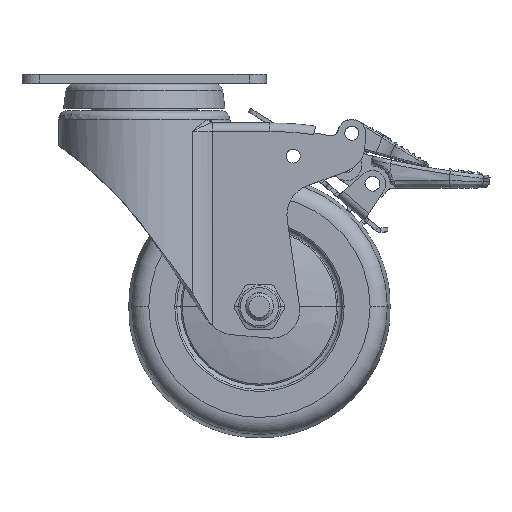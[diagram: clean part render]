
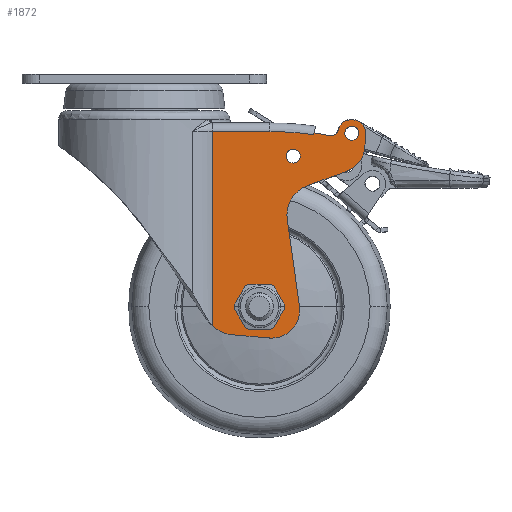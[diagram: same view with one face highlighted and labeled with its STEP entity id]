
A CAD part, top view. The second image highlights one B-rep face of the part: STEP entity #1872.
In plain terms, the highlighted planar face has unit normal (0, 0, 1).
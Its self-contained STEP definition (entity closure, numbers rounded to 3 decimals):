
#168=CARTESIAN_POINT('',(53.566,-5.193,18.5));
#169=DIRECTION('',(0.,0.,1.));
#170=DIRECTION('',(-0.191,-0.982,0.));
#171=AXIS2_PLACEMENT_3D('',#168,#169,#170);
#173=CARTESIAN_POINT('',(59.41,-6.555,18.5));
#174=DIRECTION('',(0.,0.,1.));
#175=DIRECTION('',(0.998,-0.07,0.));
#176=AXIS2_PLACEMENT_3D('',#173,#174,#175);
#178=DIRECTION('',(-0.07,-0.998,0.));
#179=VECTOR('',#178,3.604);
#180=CARTESIAN_POINT('',(63.4,-6.834,18.5));
#181=LINE('',#180,#179);
#182=CARTESIAN_POINT('',(55.168,-9.871,18.5));
#183=DIRECTION('',(0.,0.,1.));
#184=DIRECTION('',(0.342,-0.94,0.));
#185=AXIS2_PLACEMENT_3D('',#182,#183,#184);
#187=DIRECTION('',(-0.94,-0.342,0.));
#188=VECTOR('',#187,11.851);
#189=CARTESIAN_POINT('',(57.904,-17.389,18.5));
#190=LINE('',#189,#188);
#191=CARTESIAN_POINT('',(49.846,-29.899,18.5));
#192=DIRECTION('',(0.,0.,1.));
#193=DIRECTION('',(-0.342,0.94,0.));
#194=AXIS2_PLACEMENT_3D('',#191,#192,#193);
#196=DIRECTION('',(0.139,-0.99,0.));
#197=VECTOR('',#196,25.095);
#198=CARTESIAN_POINT('',(40.934,-31.152,18.5));
#199=LINE('',#198,#197);
#200=CARTESIAN_POINT('',(36.504,-57.116,18.5));
#201=DIRECTION('',(0.,0.,1.));
#202=DIRECTION('',(-0.044,-0.999,0.));
#203=AXIS2_PLACEMENT_3D('',#200,#201,#202);
#205=DIRECTION('',(-0.996,0.087,0.));
#206=VECTOR('',#205,10.919);
#207=CARTESIAN_POINT('',(36.155,-65.108,18.5));
#208=LINE('',#207,#206);
#209=CARTESIAN_POINT('',(26.149,-54.195,18.5));
#210=DIRECTION('',(0.,0.,1.));
#211=DIRECTION('',(-0.671,-0.741,0.));
#212=AXIS2_PLACEMENT_3D('',#209,#210,#211);
#214=DIRECTION('',(0.,-1.,0.));
#215=VECTOR('',#214,55.608);
#216=CARTESIAN_POINT('',(19.438,-6.,18.5));
#217=LINE('',#216,#215);
#218=DIRECTION('',(-1.,0.,0.));
#219=VECTOR('',#218,16.562);
#220=CARTESIAN_POINT('',(36.,-6.,18.5));
#221=LINE('',#220,#219);
#222=CARTESIAN_POINT('',(36.,-95.5,18.5));
#223=DIRECTION('',(0.,0.,1.));
#224=DIRECTION('',(0.14,0.99,0.));
#225=AXIS2_PLACEMENT_3D('',#222,#223,#224);
#227=CARTESIAN_POINT('',(36.,-95.5,18.5));
#228=DIRECTION('',(0.,0.,1.));
#229=DIRECTION('',(0.191,0.982,0.));
#230=AXIS2_PLACEMENT_3D('',#227,#228,#229);
#232=CARTESIAN_POINT('',(42.678,-13.,18.5));
#233=DIRECTION('',(0.,0.,1.));
#234=DIRECTION('',(1.,0.,0.));
#235=AXIS2_PLACEMENT_3D('',#232,#233,#234);
#237=CARTESIAN_POINT('',(42.678,-13.,18.5));
#238=DIRECTION('',(0.,0.,1.));
#239=DIRECTION('',(-1.,0.,0.));
#240=AXIS2_PLACEMENT_3D('',#237,#238,#239);
#242=CARTESIAN_POINT('',(59.41,-6.455,18.5));
#243=DIRECTION('',(0.,0.,1.));
#244=DIRECTION('',(1.,0.,0.));
#245=AXIS2_PLACEMENT_3D('',#242,#243,#244);
#247=CARTESIAN_POINT('',(59.41,-6.455,18.5));
#248=DIRECTION('',(0.,0.,1.));
#249=DIRECTION('',(-1.,0.,0.));
#250=AXIS2_PLACEMENT_3D('',#247,#248,#249);
#252=CARTESIAN_POINT('',(32.984,-56.15,18.5));
#253=DIRECTION('',(0.,0.,1.));
#254=DIRECTION('',(1.,0.,0.));
#255=AXIS2_PLACEMENT_3D('',#252,#253,#254);
#257=CARTESIAN_POINT('',(32.984,-56.15,18.5));
#258=DIRECTION('',(0.,0.,1.));
#259=DIRECTION('',(-1.,0.,0.));
#260=AXIS2_PLACEMENT_3D('',#257,#258,#259);
#1269=DIRECTION('',(-0.208,-0.978,0.));
#1270=VECTOR('',#1269,0.501);
#1271=CARTESIAN_POINT('',(48.608,-6.387,18.5));
#1272=LINE('',#1271,#1270);
#1349=CARTESIAN_POINT('',(48.504,-6.878,18.5));
#1350=CARTESIAN_POINT('',(36.,-6.,18.5));
#1351=VERTEX_POINT('',#1349);
#1352=VERTEX_POINT('',#1350);
#1353=CARTESIAN_POINT('',(19.438,-6.,18.5));
#1354=VERTEX_POINT('',#1353);
#1437=CARTESIAN_POINT('',(53.184,-7.156,18.5));
#1438=CARTESIAN_POINT('',(55.514,-5.647,18.5));
#1439=VERTEX_POINT('',#1437);
#1440=VERTEX_POINT('',#1438);
#1441=CARTESIAN_POINT('',(63.4,-6.834,18.5));
#1442=VERTEX_POINT('',#1441);
#1443=CARTESIAN_POINT('',(63.148,-10.429,18.5));
#1444=VERTEX_POINT('',#1443);
#1445=CARTESIAN_POINT('',(57.904,-17.389,18.5));
#1446=VERTEX_POINT('',#1445);
#1447=CARTESIAN_POINT('',(46.768,-21.442,18.5));
#1448=VERTEX_POINT('',#1447);
#1449=CARTESIAN_POINT('',(40.934,-31.152,18.5));
#1450=VERTEX_POINT('',#1449);
#1451=CARTESIAN_POINT('',(44.426,-56.002,18.5));
#1452=VERTEX_POINT('',#1451);
#1453=CARTESIAN_POINT('',(36.155,-65.108,18.5));
#1454=VERTEX_POINT('',#1453);
#1455=CARTESIAN_POINT('',(25.278,-64.157,18.5));
#1456=VERTEX_POINT('',#1455);
#1457=CARTESIAN_POINT('',(19.438,-61.608,18.5));
#1458=VERTEX_POINT('',#1457);
#1519=CARTESIAN_POINT('',(48.608,-6.387,18.5));
#1520=VERTEX_POINT('',#1519);
#1555=CARTESIAN_POINT('',(44.678,-13.,18.5));
#1556=CARTESIAN_POINT('',(40.678,-13.,18.5));
#1557=VERTEX_POINT('',#1555);
#1558=VERTEX_POINT('',#1556);
#1559=CARTESIAN_POINT('',(61.41,-6.455,18.5));
#1560=CARTESIAN_POINT('',(57.41,-6.455,18.5));
#1561=VERTEX_POINT('',#1559);
#1562=VERTEX_POINT('',#1560);
#1563=CARTESIAN_POINT('',(36.984,-56.15,18.5));
#1564=CARTESIAN_POINT('',(28.984,-56.15,18.5));
#1565=VERTEX_POINT('',#1563);
#1566=VERTEX_POINT('',#1564);
#1819=CARTESIAN_POINT('',(0.,0.,18.5));
#1820=DIRECTION('',(0.,0.,1.));
#1821=DIRECTION('',(1.,0.,0.));
#1822=AXIS2_PLACEMENT_3D('',#1819,#1820,#1821);
#1823=PLANE('',#1822);
#1825=ORIENTED_EDGE('',*,*,#1824,.T.);
#1827=ORIENTED_EDGE('',*,*,#1826,.F.);
#1829=ORIENTED_EDGE('',*,*,#1828,.T.);
#1831=ORIENTED_EDGE('',*,*,#1830,.F.);
#1833=ORIENTED_EDGE('',*,*,#1832,.T.);
#1835=ORIENTED_EDGE('',*,*,#1834,.T.);
#1837=ORIENTED_EDGE('',*,*,#1836,.T.);
#1839=ORIENTED_EDGE('',*,*,#1838,.F.);
#1841=ORIENTED_EDGE('',*,*,#1840,.T.);
#1842=ORIENTED_EDGE('',*,*,#1788,.F.);
#1843=ORIENTED_EDGE('',*,*,#1718,.F.);
#1845=ORIENTED_EDGE('',*,*,#1844,.F.);
#1847=ORIENTED_EDGE('',*,*,#1846,.F.);
#1849=ORIENTED_EDGE('',*,*,#1848,.F.);
#1851=ORIENTED_EDGE('',*,*,#1850,.F.);
#1852=EDGE_LOOP('',(#1825,#1827,#1829,#1831,#1833,#1835,#1837,#1839,#1841,#1842,
#1843,#1845,#1847,#1849,#1851));
#1853=FACE_OUTER_BOUND('',#1852,.F.);
#1855=ORIENTED_EDGE('',*,*,#1854,.T.);
#1857=ORIENTED_EDGE('',*,*,#1856,.T.);
#1858=EDGE_LOOP('',(#1855,#1857));
#1859=FACE_BOUND('',#1858,.F.);
#1861=ORIENTED_EDGE('',*,*,#1860,.T.);
#1863=ORIENTED_EDGE('',*,*,#1862,.T.);
#1864=EDGE_LOOP('',(#1861,#1863));
#1865=FACE_BOUND('',#1864,.F.);
#1867=ORIENTED_EDGE('',*,*,#1866,.T.);
#1869=ORIENTED_EDGE('',*,*,#1868,.T.);
#1870=EDGE_LOOP('',(#1867,#1869));
#1871=FACE_BOUND('',#1870,.F.);
#172=CIRCLE('',#171,2.);
#177=CIRCLE('',#176,4.);
#186=CIRCLE('',#185,8.);
#195=CIRCLE('',#194,9.);
#204=CIRCLE('',#203,8.);
#213=CIRCLE('',#212,10.);
#226=CIRCLE('',#225,89.5);
#231=CIRCLE('',#230,90.);
#236=CIRCLE('',#235,2.);
#241=CIRCLE('',#240,2.);
#246=CIRCLE('',#245,2.);
#251=CIRCLE('',#250,2.);
#256=CIRCLE('',#255,4.);
#261=CIRCLE('',#260,4.);
#1718=EDGE_CURVE('',#1354,#1458,#217,.T.);
#1788=EDGE_CURVE('',#1458,#1456,#213,.T.);
#1824=EDGE_CURVE('',#1439,#1440,#172,.T.);
#1826=EDGE_CURVE('',#1442,#1440,#177,.T.);
#1828=EDGE_CURVE('',#1442,#1444,#181,.T.);
#1830=EDGE_CURVE('',#1446,#1444,#186,.T.);
#1832=EDGE_CURVE('',#1446,#1448,#190,.T.);
#1834=EDGE_CURVE('',#1448,#1450,#195,.T.);
#1836=EDGE_CURVE('',#1450,#1452,#199,.T.);
#1838=EDGE_CURVE('',#1454,#1452,#204,.T.);
#1840=EDGE_CURVE('',#1454,#1456,#208,.T.);
#1844=EDGE_CURVE('',#1352,#1354,#221,.T.);
#1846=EDGE_CURVE('',#1351,#1352,#226,.T.);
#1848=EDGE_CURVE('',#1520,#1351,#1272,.T.);
#1850=EDGE_CURVE('',#1439,#1520,#231,.T.);
#1854=EDGE_CURVE('',#1557,#1558,#236,.T.);
#1856=EDGE_CURVE('',#1558,#1557,#241,.T.);
#1860=EDGE_CURVE('',#1561,#1562,#246,.T.);
#1862=EDGE_CURVE('',#1562,#1561,#251,.T.);
#1866=EDGE_CURVE('',#1565,#1566,#256,.T.);
#1868=EDGE_CURVE('',#1566,#1565,#261,.T.);
#1872=ADVANCED_FACE('',(#1853,#1859,#1865,#1871),#1823,.T.);
